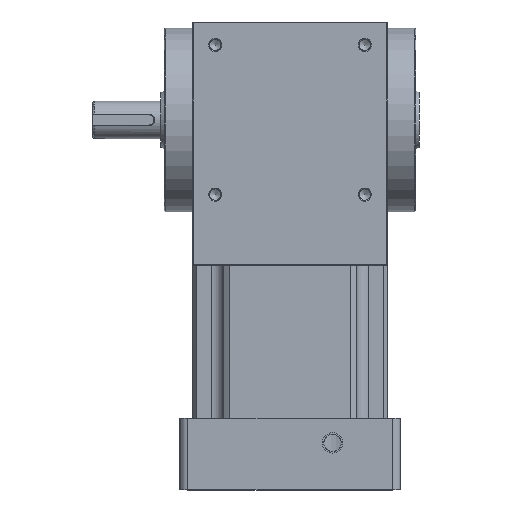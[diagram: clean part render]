
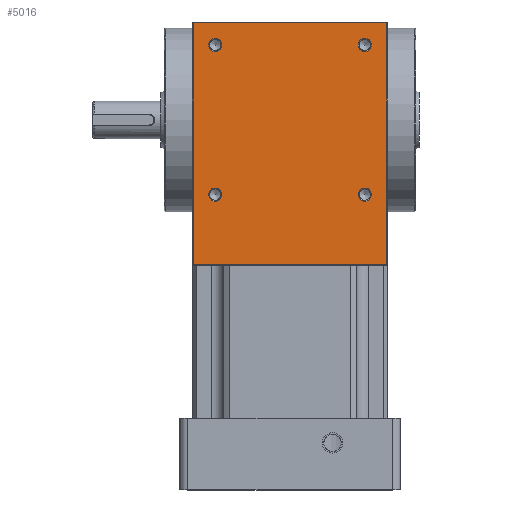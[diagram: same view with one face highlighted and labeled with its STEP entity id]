
A CAD part, top view. The second image highlights one B-rep face of the part: STEP entity #5016.
In plain terms, the highlighted planar face has unit normal (0, 0, 1).
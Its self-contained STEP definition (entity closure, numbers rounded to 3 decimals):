
#3836=CARTESIAN_POINT('',(57.,-85.,57.5));
#3837=VERTEX_POINT('',#3836);
#3844=CARTESIAN_POINT('',(-57.,-85.,57.5));
#3845=VERTEX_POINT('',#3844);
#3846=CARTESIAN_POINT('',(57.,-85.,57.5));
#3847=DIRECTION('',(-1.0,0.0,0.0));
#3848=VECTOR('',#3847,114.);
#3849=LINE('',#3846,#3848);
#3850=EDGE_CURVE('',#3837,#3845,#3849,.T.);
#3958=CARTESIAN_POINT('',(-57.,57.,57.5));
#3959=VERTEX_POINT('',#3958);
#3960=CARTESIAN_POINT('',(-57.,57.,57.5));
#3961=DIRECTION('',(0.0,-1.0,0.0));
#3962=VECTOR('',#3961,142.0);
#3963=LINE('',#3960,#3962);
#3964=EDGE_CURVE('',#3959,#3845,#3963,.T.);
#3990=CARTESIAN_POINT('',(57.,57.,57.5));
#3991=VERTEX_POINT('',#3990);
#3998=CARTESIAN_POINT('',(57.,57.,57.5));
#3999=DIRECTION('',(0.0,-1.0,0.0));
#4000=VECTOR('',#3999,142.);
#4001=LINE('',#3998,#4000);
#4002=EDGE_CURVE('',#3991,#3837,#4001,.T.);
#4152=CARTESIAN_POINT('',(-57.,57.,57.5));
#4153=DIRECTION('',(1.0,0.0,0.0));
#4154=VECTOR('',#4153,114.0);
#4155=LINE('',#4152,#4154);
#4156=EDGE_CURVE('',#3959,#3991,#4155,.T.);
#4957=CARTESIAN_POINT('',(40.177,-44.,57.5));
#4958=VERTEX_POINT('',#4957);
#4959=CARTESIAN_POINT('',(44.0,-44.,57.5));
#4960=DIRECTION('',(0.0,0.0,1.0));
#4961=DIRECTION('',(1.0,0.0,0.0));
#4962=AXIS2_PLACEMENT_3D('',#4959,#4960,#4961);
#4963=CIRCLE('',#4962,3.823);
#4964=EDGE_CURVE('',#4958,#4958,#4963,.T.);
#4969=CARTESIAN_POINT('',(0.,0.,57.5));
#4970=DIRECTION('',(0.0,0.0,1.0));
#4971=DIRECTION('',(1.0,0.0,0.0));
#4972=AXIS2_PLACEMENT_3D('',#4969,#4970,#4971);
#4973=PLANE('',#4972);
#4974=ORIENTED_EDGE('',*,*,#3850,.F.);
#4975=ORIENTED_EDGE('',*,*,#4002,.F.);
#4976=ORIENTED_EDGE('',*,*,#4156,.F.);
#4977=ORIENTED_EDGE('',*,*,#3964,.T.);
#4978=EDGE_LOOP('',(#4974,#4975,#4976,#4977));
#4979=FACE_OUTER_BOUND('',#4978,.T.);
#4980=CARTESIAN_POINT('',(40.177,44.,57.5));
#4981=VERTEX_POINT('',#4980);
#4982=CARTESIAN_POINT('',(44.,44.,57.5));
#4983=DIRECTION('',(0.0,0.0,1.0));
#4984=DIRECTION('',(1.0,0.0,0.0));
#4985=AXIS2_PLACEMENT_3D('',#4982,#4983,#4984);
#4986=CIRCLE('',#4985,3.823);
#4987=EDGE_CURVE('',#4981,#4981,#4986,.T.);
#4988=ORIENTED_EDGE('',*,*,#4987,.F.);
#4989=EDGE_LOOP('',(#4988));
#4990=FACE_BOUND('',#4989,.T.);
#4991=CARTESIAN_POINT('',(-40.177,44.,57.5));
#4992=VERTEX_POINT('',#4991);
#4993=CARTESIAN_POINT('',(-44.0,44.,57.5));
#4994=DIRECTION('',(0.0,0.0,1.0));
#4995=DIRECTION('',(-1.0,0.0,0.0));
#4996=AXIS2_PLACEMENT_3D('',#4993,#4994,#4995);
#4997=CIRCLE('',#4996,3.823);
#4998=EDGE_CURVE('',#4992,#4992,#4997,.T.);
#4999=ORIENTED_EDGE('',*,*,#4998,.F.);
#5000=EDGE_LOOP('',(#4999));
#5001=FACE_BOUND('',#5000,.T.);
#5002=CARTESIAN_POINT('',(-40.177,-44.,57.5));
#5003=VERTEX_POINT('',#5002);
#5004=CARTESIAN_POINT('',(-44.0,-44.,57.5));
#5005=DIRECTION('',(0.0,0.0,1.0));
#5006=DIRECTION('',(-1.0,0.0,0.0));
#5007=AXIS2_PLACEMENT_3D('',#5004,#5005,#5006);
#5008=CIRCLE('',#5007,3.823);
#5009=EDGE_CURVE('',#5003,#5003,#5008,.T.);
#5010=ORIENTED_EDGE('',*,*,#5009,.F.);
#5011=EDGE_LOOP('',(#5010));
#5012=FACE_BOUND('',#5011,.T.);
#5013=ORIENTED_EDGE('',*,*,#4964,.F.);
#5014=EDGE_LOOP('',(#5013));
#5015=FACE_BOUND('',#5014,.T.);
#5016=ADVANCED_FACE('',(#4979,#4990,#5001,#5012,#5015),#4973,.T.);
